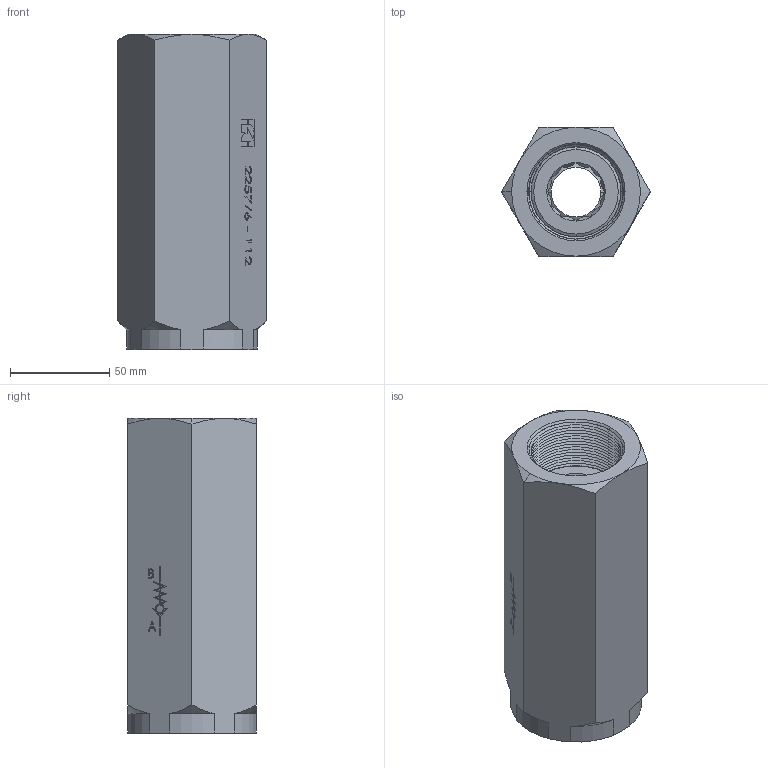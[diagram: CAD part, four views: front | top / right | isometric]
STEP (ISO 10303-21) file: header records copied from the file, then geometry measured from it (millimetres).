
FILE_DESCRIPTION (( 'STEP AP214' ), '1' );
FILE_NAME ('2257-6-112.STEP', '2015-04-08T20:07:22', ( '' ), ( '' ), 'SwSTEP 2.0', 'SolidWorks 2014', '' );
FILE_SCHEMA (( 'AUTOMOTIVE_DESIGN' ));
Length unit declared in the file: millimetre
Products named in the file (1): 2257-6-112
Bounding box: 75.06 x 65 x 159 mm (x, y, z)
Surface area: 51016.5 mm2 (no closed solid volume)
Topology: 0 solids, 18 shells, 291 faces, 938 edges, 626 vertices
Faces by surface type: plane 128, cone 115, bspline 32, cylinder 16
Entity records: 15733 total; most frequent: CARTESIAN_POINT 4676, ORIENTED_EDGE 1526, DIRECTION 1510, EDGE_CURVE 938, VERTEX_POINT 626, VECTOR 590, LINE 590, AXIS2_PLACEMENT_3D 460
